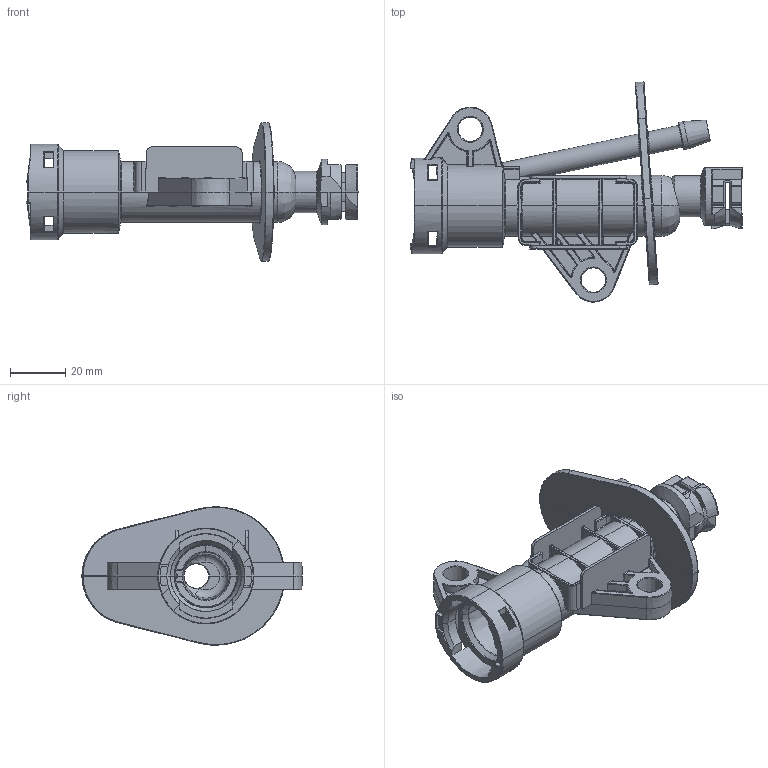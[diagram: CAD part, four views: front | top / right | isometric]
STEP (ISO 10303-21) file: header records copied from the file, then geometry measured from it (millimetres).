
FILE_DESCRIPTION (( 'STEP AP203' ), '1' );
FILE_NAME ('Patrik_Kotrla_vyrobek-model_DP_2025.STEP', '2025-05-06T10:31:26', ( '' ), ( '' ), 'SwSTEP 2.0', 'SolidWorks 2023', '' );
FILE_SCHEMA (( 'CONFIG_CONTROL_DESIGN' ));
Length unit declared in the file: millimetre
Products named in the file (1): Patrik_Kotrla_vyrobek-model_DP_2025
Bounding box: 120 x 79.57 x 50 mm (x, y, z)
Volume: 42344.5 mm3; surface area: 31241.1 mm2
Topology: 1 solids, 1 shells, 1100 faces, 2613 edges, 1484 vertices
Faces by surface type: cylinder 318, bspline 280, plane 231, sphere 105, cone 85, torus 81
Entity records: 38087 total; most frequent: CARTESIAN_POINT 15539, ORIENTED_EDGE 5190, DIRECTION 4297, EDGE_CURVE 2595, AXIS2_PLACEMENT_3D 1721, VERTEX_POINT 1484, EDGE_LOOP 1109, FACE_OUTER_BOUND 1100
